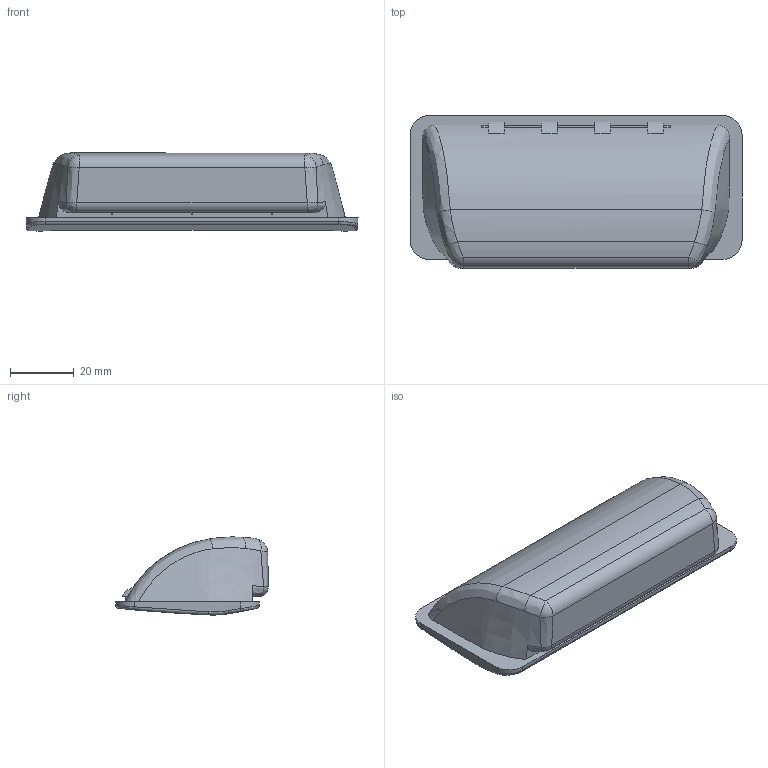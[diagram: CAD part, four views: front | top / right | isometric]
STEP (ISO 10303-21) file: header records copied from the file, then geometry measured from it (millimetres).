
FILE_DESCRIPTION (( 'STEP AP203' ), '1' );
FILE_NAME ('E25-25162.STEP', '2024-10-29T08:15:26', ( '' ), ( '' ), 'SwSTEP 2.0', 'SolidWorks 2021', '' );
FILE_SCHEMA (( 'CONFIG_CONTROL_DESIGN' ));
Length unit declared in the file: millimetre
Products named in the file (1): E25-25162
Bounding box: 104 x 47.85 x 24.46 mm (x, y, z)
Volume: 20290.3 mm3; surface area: 18941.8 mm2
Topology: 1 solids, 1 shells, 136 faces, 325 edges, 190 vertices
Faces by surface type: bspline 60, plane 42, cylinder 24, sphere 6, cone 4
Entity records: 5943 total; most frequent: CARTESIAN_POINT 3202, ORIENTED_EDGE 646, DIRECTION 431, EDGE_CURVE 323, VERTEX_POINT 190, AXIS2_PLACEMENT_3D 157, EDGE_LOOP 137, ADVANCED_FACE 136
